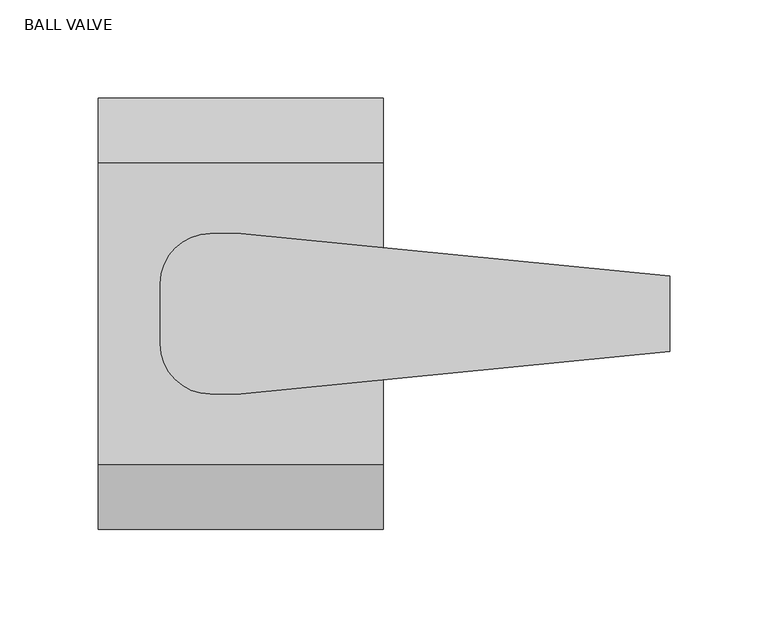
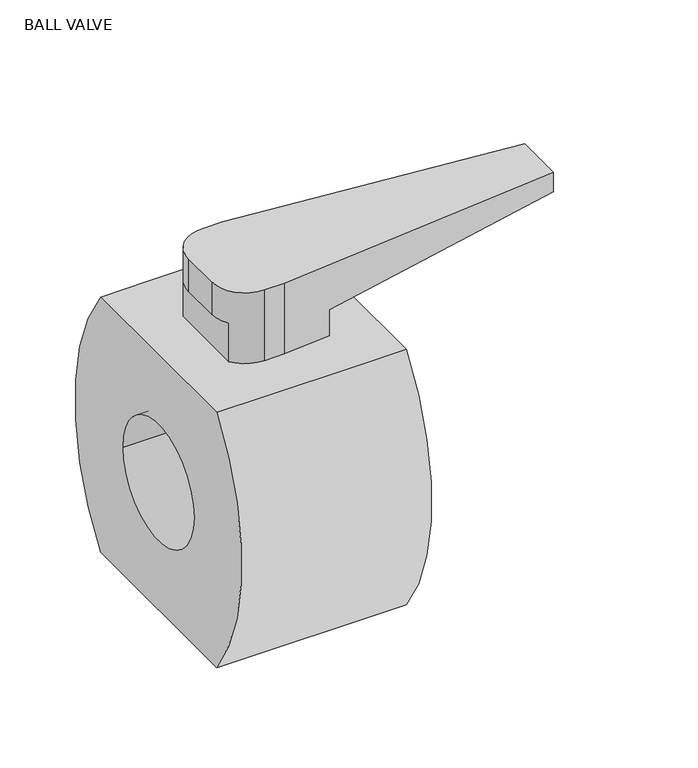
"""IFC4 building model written with IfcOpenShell, lengths in millimetres: valve geometry, Aquatherm - Ball Valve : BALL VALVE."""

import ifcopenshell
import ifcopenshell.guid

model = None  # the IFC model being written
_history = None  # IfcOwnerHistory: only IFC2X3 demands one
_inside = {}  # id of a spatial element -> (the spatial element, [elements in it])
_under = {}  # id of a project, library or spatial element -> (it, [spatial elements below it])
_declared = {}  # id of a project -> (the project, [libraries it declares])
_typed = {}  # id of a type object -> (the type object, [elements of that type])
_made_of = {}  # id of a material, layer set ... -> (it, [elements and type objects made of it])


def new_model(schema):
    """Start an empty IFC model of exactly this schema.

    Asked for "IFC4X3", IfcOpenShell would pick the latest addendum, in which some entities
    have other attributes; the version numbers below select the first issue.
    IFC2X3 requires an IfcOwnerHistory on every rooted entity: one is made here for all.
    """
    global model, _history
    if schema == "IFC4X3":
        model = ifcopenshell.file(schema_version=(4, 3, 0, 0))
    else:
        model = ifcopenshell.file(schema=schema)
    _inside.clear()
    _under.clear()
    _declared.clear()
    _typed.clear()
    _made_of.clear()
    _history = None
    if model.schema == "IFC2X3":
        org = make("IfcOrganization", Name="unknown")
        user = make(
            "IfcPersonAndOrganization",
            ThePerson=make("IfcPerson", FamilyName="unknown"),
            TheOrganization=org,
        )
        app = make(
            "IfcApplication",
            ApplicationDeveloper=org,
            Version="unknown",
            ApplicationFullName="unknown",
            ApplicationIdentifier="unknown",
        )
        _history = make(
            "IfcOwnerHistory",
            OwningUser=user,
            OwningApplication=app,
            ChangeAction="ADDED",
            CreationDate=0,
        )
    return model


def make(cls, **values):
    """One entity of the class cls with the attributes given. An attribute that is None is left unset."""
    return model.create_entity(
        cls, **{name: value for name, value in values.items() if value is not None}
    )


def rooted(cls, **values):
    """An entity with a GlobalId (a new one), such as an element, a storey or a relation."""
    return make(cls, GlobalId=ifcopenshell.guid.new(), OwnerHistory=_history, **values)


def si_unit(unit_type, name, prefix=None):
    """IfcSIUnit, for example si_unit("LENGTHUNIT", "METRE", prefix="MILLI")."""
    return make("IfcSIUnit", UnitType=unit_type, Prefix=prefix, Name=name)


def assignment(units):
    """IfcUnitAssignment: the units of a project."""
    return None if units is None else make("IfcUnitAssignment", Units=units)


def point(xyz):
    """IfcCartesianPoint."""
    return None if xyz is None else make("IfcCartesianPoint", Coordinates=xyz)


def direction(xyz):
    """IfcDirection."""
    return None if xyz is None else make("IfcDirection", DirectionRatios=xyz)


def frame(location, z_axis=None, x_axis=None):
    """IfcAxis2Placement3D, a coordinate frame: its origin and axes. An axis left out is left unset."""
    return make(
        "IfcAxis2Placement3D",
        Location=point(location),
        Axis=direction(z_axis),
        RefDirection=direction(x_axis),
    )


def origin():
    """The frame at (0, 0, 0) with its axes left unset."""
    return frame((0.0, 0.0, 0.0))


def place(relative_to, where):
    """IfcLocalPlacement: puts the frame where relative to a parent placement (None: the world)."""
    return make(
        "IfcLocalPlacement", PlacementRelTo=relative_to, RelativePlacement=where
    )


def context(
    kind, dimensions, precision=None, world=None, true_north=None, identifier=None
):
    """IfcGeometricRepresentationContext, for example the 3D "Model" context."""
    return make(
        "IfcGeometricRepresentationContext",
        ContextIdentifier=identifier,
        ContextType=kind,
        CoordinateSpaceDimension=dimensions,
        Precision=precision,
        WorldCoordinateSystem=world,
        TrueNorth=true_north,
    )


def project(units=None, contexts=None):
    """IfcProject with its units and contexts."""
    return rooted(
        "IfcProject",
        Name="project",
        RepresentationContexts=contexts,
        UnitsInContext=assignment(units),
    )


def spatial(cls, under=None, at=None, **own):
    """A site, building, storey or space (cls), placed at a placement, below another one or the project."""
    s = rooted(cls, ObjectPlacement=at, **own)
    if under is not None:
        _under.setdefault(under.id(), (under, []))[1].append(s)
    return s


def polyline(points):
    """IfcPolyline through the points."""
    return make("IfcPolyline", Points=[point(p) for p in points])


def circle_curve(where, radius):
    """IfcCircle in the frame where."""
    return make("IfcCircle", Position=where, Radius=radius)


def shape(context_of_items, identifier, shape_type, items):
    """IfcShapeRepresentation: the items that make up one representation, for example the "Body"."""
    return make(
        "IfcShapeRepresentation",
        ContextOfItems=context_of_items,
        RepresentationIdentifier=identifier,
        RepresentationType=shape_type,
        Items=items,
    )


def source(mapping_origin, context_of_items, identifier, shape_type, items):
    """IfcRepresentationMap: a shape defined once, which mapped items show again and again."""
    return make(
        "IfcRepresentationMap",
        MappingOrigin=mapping_origin,
        MappedRepresentation=shape(context_of_items, identifier, shape_type, items),
    )


def transform(
    local_origin,
    x_axis=None,
    y_axis=None,
    z_axis=None,
    scale=None,
    scale2=None,
    scale3=None,
    uniform=True,
):
    """IfcCartesianTransformationOperator3D, or its non-uniform kind. x_axis, y_axis, z_axis: its Axis1, 2, 3."""
    if uniform:
        return make(
            "IfcCartesianTransformationOperator3D",
            Axis1=direction(x_axis),
            Axis2=direction(y_axis),
            LocalOrigin=point(local_origin),
            Scale=scale,
            Axis3=direction(z_axis),
        )
    return make(
        "IfcCartesianTransformationOperator3DnonUniform",
        Axis1=direction(x_axis),
        Axis2=direction(y_axis),
        LocalOrigin=point(local_origin),
        Scale=scale,
        Axis3=direction(z_axis),
        Scale2=scale2,
        Scale3=scale3,
    )


def mapped(mapping_source, mapping_target):
    """IfcMappedItem: shows the shape of a source again, moved by a transform."""
    return make(
        "IfcMappedItem", MappingSource=mapping_source, MappingTarget=mapping_target
    )


def made_of(thing, what):
    """Note that an element or type object is made of a material, layer set ...; save() writes the relation."""
    if what is not None:
        _made_of.setdefault(what.id(), (what, []))[1].append(thing)
    return thing


def element(
    cls,
    number,
    at=None,
    inside=None,
    cuts=None,
    type_object=None,
    material=None,
    context=None,
    identifier="Body",
    shape_type=None,
    held_by="IfcProductDefinitionShape",
    body=None,
    shapes=None,
    **own,
):
    """One element of the class cls, such as IfcWall. Its Tag is "e" and its number.

    at: its placement. inside: the storey or other place that contains it. cuts: it is an
    opening in that element (IfcRelVoidsElement). A single representation is given by context,
    identifier, shape_type and body (its items); several are given by shapes. held_by: the class
    of the entity that holds the representations. save() writes the other relations.
    """
    e = rooted(cls, Tag="e%d" % number, ObjectPlacement=at, **own)
    if body is not None:
        shapes = [shape(context, identifier, shape_type, body)]
    if shapes is not None:
        e.Representation = make(held_by, Representations=shapes)
    if inside is not None:
        _inside.setdefault(inside.id(), (inside, []))[1].append(e)
    if cuts is not None:
        rooted(
            "IfcRelVoidsElement", RelatingBuildingElement=cuts, RelatedOpeningElement=e
        )
    if type_object is not None:
        _typed.setdefault(type_object.id(), (type_object, []))[1].append(e)
    return made_of(e, material)


def aggregate(whole, parts):
    """IfcRelAggregates: a whole, such as a stair, and the parts it consists of."""
    return rooted("IfcRelAggregates", RelatingObject=whole, RelatedObjects=parts)


def save(model, path):
    """Write the relations noted so far, then the file.

    IfcRelAggregates (storeys below a building ...), IfcRelContainedInSpatialStructure (elements
    in a storey), IfcRelDefinesByType, IfcRelAssociatesMaterial and IfcRelDeclares: one each for
    every whole, place, type object, material and project.
    """
    for whole, parts in _under.values():
        aggregate(whole, parts)
    for where, things in _inside.values():
        rooted(
            "IfcRelContainedInSpatialStructure",
            RelatedElements=things,
            RelatingStructure=where,
        )
    for kind, things in _typed.values():
        rooted("IfcRelDefinesByType", RelatedObjects=things, RelatingType=kind)
    for what, things in _made_of.values():
        rooted("IfcRelAssociatesMaterial", RelatedObjects=things, RelatingMaterial=what)
    for by, libraries in _declared.values():
        rooted("IfcRelDeclares", RelatingContext=by, RelatedDefinitions=libraries)
    model.write(path)


def plane_surface(at):
    """IfcPlane: the flat surface through the origin of the frame at, square to its z axis."""
    return make("IfcPlane", Position=at)


def cylinder_surface(at, radius):
    """IfcCylindricalSurface: all points at the distance radius from the z axis of the frame at."""
    return make("IfcCylindricalSurface", Position=at, Radius=radius)


def revolved_surface(curve, axis_point, axis_direction):
    """IfcSurfaceOfRevolution: the curve turned about the line through axis_point along axis_direction."""
    return make(
        "IfcSurfaceOfRevolution",
        SweptCurve=make("IfcArbitraryOpenProfileDef", ProfileType="CURVE", Curve=curve),
        AxisPosition=make("IfcAxis1Placement", Location=point(axis_point), Axis=direction(axis_direction)),
    )


def advanced_brep(points, edges, surfaces, faces):
    """IfcAdvancedBrep: a solid bounded by faces that lie on surfaces and meet in shared edges.

    An edge is (start, end): straight between two places in points (the first is 0);
    or (start, end, curve); or (start, end, curve, False) where it runs against its curve.
    A face is (place in surfaces, loops), or (place, loops, False) where it looks against
    its surface's normal. A loop lists edges by number (the first is 1), with a minus sign
    where the edge is run from its end to its start. The first loop is the outer one.
    """
    corners = [point(p) for p in points]
    vertices = [make("IfcVertexPoint", VertexGeometry=c) for c in corners]
    made = []
    for start, end, *more in edges:
        made.append(
            make(
                "IfcEdgeCurve",
                EdgeStart=vertices[start],
                EdgeEnd=vertices[end],
                EdgeGeometry=more[0] if more else make("IfcPolyline", Points=[corners[start], corners[end]]),
                SameSense=more[1] if len(more) > 1 else True,
            )
        )
    hull = []
    for where, loops, *sense in faces:
        bounds = []
        for j, loop in enumerate(loops):
            ring = [make("IfcOrientedEdge", EdgeElement=made[abs(k) - 1], Orientation=k > 0) for k in loop]
            bounds.append(
                make(
                    "IfcFaceOuterBound" if j == 0 else "IfcFaceBound",
                    Bound=make("IfcEdgeLoop", EdgeList=ring),
                    Orientation=True,
                )
            )
        hull.append(make("IfcAdvancedFace", Bounds=bounds, FaceSurface=surfaces[where], SameSense=sense[0] if sense else True))
    return make("IfcAdvancedBrep", Outer=make("IfcClosedShell", CfsFaces=hull))


def ball_valve_b30644fb(model_context):
    return source(origin(), model_context, "Body", "AdvancedBrep", [
        advanced_brep(
        [(0.0, 40.878125, 160.274), (-15.459075, 40.878125, 160.274), (-40.859075, 15.478125, 160.274), (-40.859075, -15.478125, 160.274), (-15.459075, -40.878125, 160.274), (0.0, -40.878125, 160.274), (218.220925, -19.1539441, 160.274), (218.220925, 19.1539441, 160.274), (0.0, -40.878125, 103.124), (-15.459075, -40.878125, 103.124), (-36.2585, -30.0570111, 103.124), (-36.2585, 30.0570111, 103.124), (-15.459075, 40.878125, 103.124), (0.0, 40.878125, 103.124), (36.2585, 37.2685435, 103.124), (36.2585, -37.2685435, 103.124), (-36.2585, 30.0570111, 134.112), (-40.859075, 15.478125, 134.112), (-40.859075, -15.478125, 134.112), (-36.2585, -30.0570111, 134.112), (36.2585, -37.2685435, 123.7826667), (218.220925, -19.1539441, 144.4413333), (218.220925, 19.1539441, 144.4413333), (36.2585, 37.2685435, 123.7826667)],
        [
            (0, 1),
            (1, 2, circle_curve(frame((-15.459075, 15.478125, 160.274), z_axis=(0.0, 0.0, 1.0), x_axis=(0.0, 1.0, 0.0)), 25.4)),
            (2, 3),
            (3, 4, circle_curve(frame((-15.459075, -15.478125, 160.274), z_axis=(0.0, 0.0, 1.0), x_axis=(0.0, 1.0, 0.0)), 25.4)),
            (4, 5),
            (5, 6),
            (6, 7),
            (7, 0),
            (8, 9),
            (9, 10, circle_curve(frame((-15.459075, -15.478125, 103.124), z_axis=(0.0, 0.0, -1.0), x_axis=(0.0, 1.0, 0.0)), 25.4)),
            (10, 11),
            (11, 12, circle_curve(frame((-15.459075, 15.478125, 103.124), z_axis=(0.0, 0.0, -1.0), x_axis=(0.0, 1.0, 0.0)), 25.4)),
            (12, 13),
            (13, 14),
            (14, 15),
            (15, 8),
            (0, 13),
            (12, 1),
            (11, 16),
            (16, 17, circle_curve(frame((-15.459075, 15.478125, 134.112), z_axis=(0.0, 0.0, 1.0), x_axis=(0.0, 1.0, 0.0)), 25.4)),
            (17, 2),
            (17, 18),
            (18, 3),
            (18, 19, circle_curve(frame((-15.459075, -15.478125, 134.112), z_axis=(0.0, 0.0, 1.0), x_axis=(0.0, 1.0, 0.0)), 25.4)),
            (19, 10),
            (9, 4),
            (8, 5),
            (15, 20),
            (20, 21),
            (21, 6),
            (21, 22),
            (22, 7),
            (22, 23),
            (23, 14),
            (19, 16),
            (20, 23),
        ],
        [
            plane_surface(frame((-15.459075, 40.878125, 160.274), z_axis=(0.0, 0.0, 1.0), x_axis=(-1.0, 0.0, 0.0))),
            plane_surface(frame((-15.459075, 40.878125, 103.124), z_axis=(0.0, 0.0, -1.0), x_axis=(1.0, 0.0, 0.0))),
            plane_surface(frame((0.0, 40.878125, 160.274), z_axis=(0.0, 1.0, 0.0), x_axis=(0.0, 0.0, -1.0))),
            cylinder_surface(frame((-15.459075, 15.478125, 103.124), z_axis=(0.0, 0.0, 1.0), x_axis=(0.0, 1.0, 0.0)), 25.4),
            plane_surface(frame((-40.859075, 15.478125, 160.274), z_axis=(-1.0, 0.0, 0.0), x_axis=(0.0, 0.0, -1.0))),
            cylinder_surface(frame((-15.459075, -15.478125, 103.124), z_axis=(0.0, 0.0, 1.0), x_axis=(0.0, 1.0, 0.0)), 25.4),
            plane_surface(frame((-15.459075, -40.878125, 160.274), z_axis=(0.0, -1.0, 0.0), x_axis=(0.0, 0.0, -1.0))),
            plane_surface(frame((0.0, -40.878125, 160.274), z_axis=(0.09906165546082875, -0.9950812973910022, 0.0), x_axis=(0.0, 0.0, -1.0))),
            plane_surface(frame((218.220925, -19.1539441, 160.274), z_axis=(1.0, 0.0, 0.0), x_axis=(0.0, 0.0, -1.0))),
            plane_surface(frame((218.220925, 19.1539441, 160.274), z_axis=(0.09906165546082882, 0.9950812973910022, 0.0), x_axis=(0.0, 0.0, -1.0))),
            plane_surface(frame((-36.2585, -304.8, 103.124), z_axis=(-1.0, 0.0, 0.0), x_axis=(0.0, 1.0, 0.0))),
            plane_surface(frame((-36.2585, -304.8, 134.112), z_axis=(0.0, 0.0, -1.0), x_axis=(0.0, 1.0, 0.0))),
            plane_surface(frame((218.220925, -304.8, 144.4413333), z_axis=(0.11280789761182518, 0.0, -0.9936168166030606), x_axis=(0.0, 1.0, 0.0))),
            plane_surface(frame((36.2585, -304.8, 123.7826667), z_axis=(1.0, 0.0, 0.0), x_axis=(0.0, 1.0, 0.0))),
        ],
        [
            (0, [[1, 2, 3, 4, 5, 6, 7, 8]]),
            (1, [[9, 10, 11, 12, 13, 14, 15, 16]]),
            (2, [[-1, 17, -13, 18]]),
            (3, [[-2, -18, -12, 19, 20, 21]]),
            (4, [[-3, -21, 22, 23]]),
            (5, [[-4, -23, 24, 25, -10, 26]]),
            (6, [[-5, -26, -9, 27]]),
            (7, [[-6, -27, -16, 28, 29, 30]]),
            (8, [[-7, -30, 31, 32]]),
            (9, [[-8, -32, 33, 34, -14, -17]]),
            (10, [[35, -19, -11, -25]]),
            (11, [[-35, -24, -22, -20]]),
            (12, [[36, -33, -31, -29]]),
            (13, [[-36, -28, -15, -34]]),
        ],
    ),
        advanced_brep(
        [(72.517, -76.7577367, 103.124), (72.517, -76.7577367, -103.124), (72.517, 76.7577367, -103.124), (72.517, 76.7577367, 103.124), (72.517, -46.99, 0.0), (72.517, 46.99, 0.0), (-72.517, -76.7577367, 103.124), (-72.517, 76.7577367, 103.124), (-72.517, 76.7577367, -103.124), (-72.517, -76.7577367, -103.124), (-72.517, -46.99, 0.0), (-72.517, 46.99, 0.0), (36.2585, 76.7577367, 103.124), (-36.2585, 76.7577367, 103.124), (-36.2585, -76.7577367, 103.124), (36.2585, -76.7577367, 103.124)],
        [
            (0, 1, circle_curve(frame((72.517, 64.008, 0.0), z_axis=(1.0, 0.0, 0.0), x_axis=(0.0, 1.0, 0.0)), 174.498)),
            (1, 2),
            (2, 3, circle_curve(frame((72.517, -64.008, 0.0), z_axis=(1.0, 0.0, 0.0), x_axis=(0.0, 1.0, 0.0)), 174.498)),
            (3, 0),
            (4, 5, circle_curve(frame((72.517, 0.0, 0.0), z_axis=(-1.0, 0.0, 0.0), x_axis=(0.0, 1.0, 0.0)), 46.99)),
            (5, 4, circle_curve(frame((72.517, 0.0, 0.0), z_axis=(-1.0, 0.0, 0.0), x_axis=(0.0, 1.0, 0.0)), 46.99)),
            (6, 7),
            (7, 8, circle_curve(frame((-72.517, -64.008, 0.0), z_axis=(-1.0, 0.0, 0.0), x_axis=(0.0, 1.0, 0.0)), 174.498)),
            (8, 9),
            (9, 6, circle_curve(frame((-72.517, 64.008, 0.0), z_axis=(-1.0, 0.0, 0.0), x_axis=(0.0, 1.0, 0.0)), 174.498)),
            (10, 11, circle_curve(frame((-72.517, 0.0, 0.0), z_axis=(1.0, 0.0, 0.0), x_axis=(0.0, 1.0, 0.0)), 46.99)),
            (11, 10, circle_curve(frame((-72.517, 0.0, 0.0), z_axis=(1.0, 0.0, 0.0), x_axis=(0.0, 1.0, 0.0)), 46.99)),
            (1, 9),
            (8, 2),
            (3, 12),
            (12, 13),
            (13, 7),
            (6, 14),
            (14, 15),
            (15, 0),
            (4, 10),
            (11, 5),
        ],
        [
            plane_surface(frame((72.517, 238.506, 0.0), z_axis=(1.0, 0.0, 0.0), x_axis=(0.0, 0.0, 1.0))),
            plane_surface(frame((-72.517, 238.506, 0.0), z_axis=(-1.0, 0.0, 0.0), x_axis=(0.0, 0.0, -1.0))),
            plane_surface(frame((72.517, -76.7577367, -103.124), z_axis=(0.0, 0.0, -1.0), x_axis=(-1.0, 0.0, 0.0))),
            plane_surface(frame((72.517, 76.7577367, 103.124), z_axis=(0.0, 0.0, 1.0), x_axis=(-1.0, 0.0, 0.0))),
            revolved_surface(polyline([(-72.517, 46.99, 0.0), (72.517, 46.99, 0.0)]), (0.0, 0.0, 0.0), (-1.0, 0.0, 0.0)),
            cylinder_surface(frame((-72.517, 64.008, 0.0), z_axis=(1.0, 0.0, 0.0), x_axis=(0.0, 1.0, 0.0)), 174.498),
            cylinder_surface(frame((-72.517, -64.008, 0.0), z_axis=(1.0, 0.0, 0.0), x_axis=(0.0, 1.0, 0.0)), 174.498),
        ],
        [
            (0, [[1, 2, 3, 4], [5, 6]]),
            (1, [[7, 8, 9, 10], [11, 12]]),
            (2, [[-2, 13, -9, 14]]),
            (3, [[-4, 15, 16, 17, -7, 18, 19, 20]]),
            (4, [[-5, 21, -12, 22]]),
            (4, [[-6, -22, -11, -21]]),
            (5, [[-1, -20, -19, -18, -10, -13]]),
            (6, [[-3, -14, -8, -17, -16, -15]]),
        ],
    ),
    ])


if __name__ == "__main__":
    model = new_model("IFC4")
    model_context = context("Model", 3, world=origin())
    ifc_project = project(units=[si_unit("LENGTHUNIT", "METRE", prefix="MILLI")], contexts=[model_context])
    site = spatial("IfcSite", under=ifc_project)
    building = spatial("IfcBuilding", under=site)
    placement = place(None, origin())
    ball_valve_shape = ball_valve_b30644fb(model_context)
    element("IfcValve", 1, ObjectType="Aquatherm - Ball Valve : BALL VALVE", at=placement, inside=building, context=model_context, shape_type="MappedRepresentation", body=[
        mapped(ball_valve_shape, transform((0.0, 0.0, 0.0), x_axis=(1.0, 0.0, 0.0), y_axis=(0.0, 1.0, 0.0), z_axis=(0.0, 0.0, 1.0))),
    ])
    save(model, "model.ifc")
